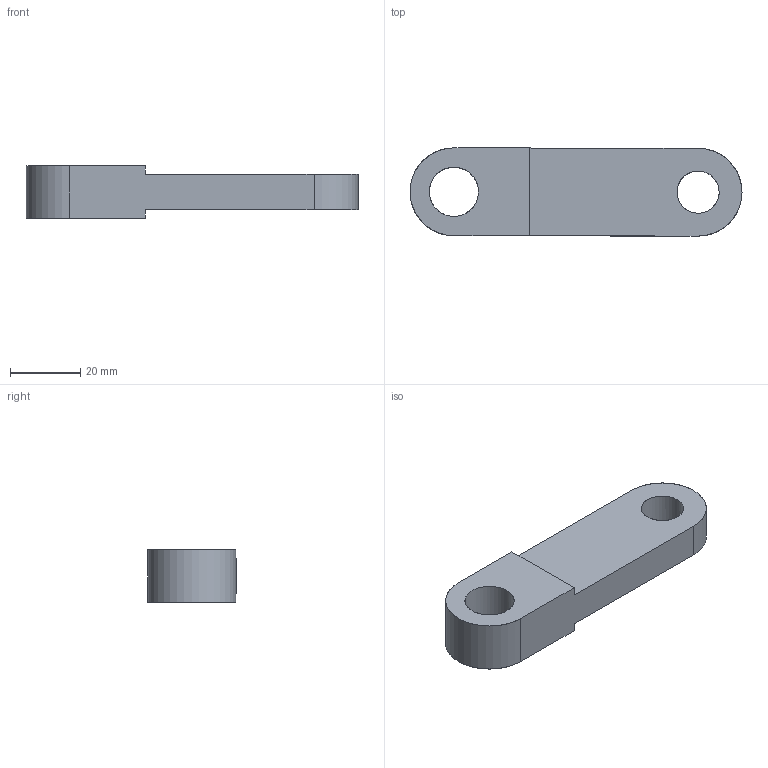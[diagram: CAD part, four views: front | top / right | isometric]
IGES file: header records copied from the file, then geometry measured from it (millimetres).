
Start section: File produced by SOLID-CONCEP (Trim Surfaces - Entity 144)
Global section: file name: 42.igs; native system: SOLID-CONCEPT V.5.xx; preprocessor: SOLID-CONCEPT-IGES-OUT v2.00; date: 100220.124728; units: millimetre
Bounding box: 94.5 x 25.09 x 15 mm (x, y, z)
Surface area: 7671.2 mm2 (no closed solid volume)
Topology: 0 solids, 0 shells, 12 faces, 76 edges, 72 vertices
Faces by surface type: bspline 8, revolution 4
